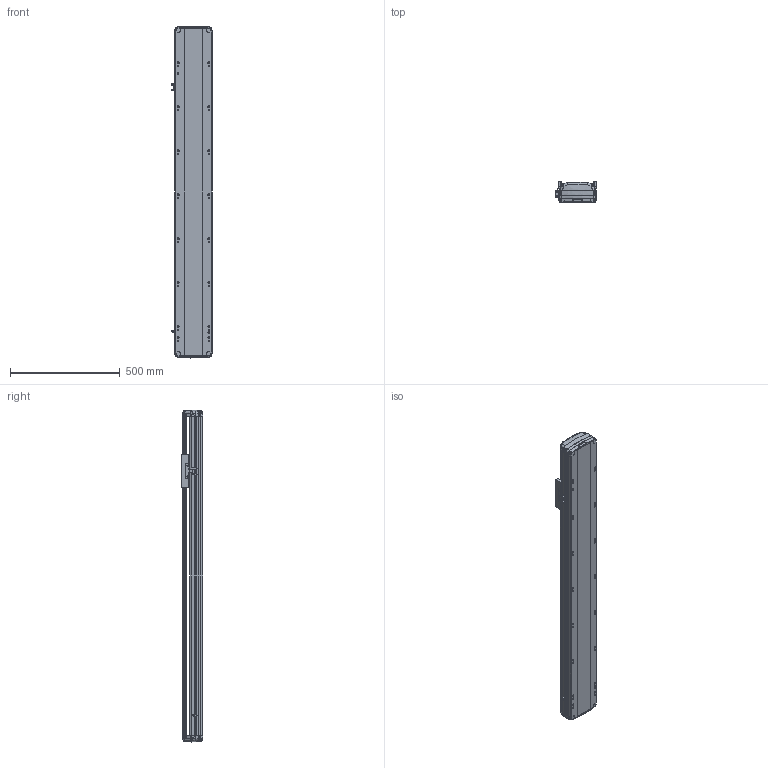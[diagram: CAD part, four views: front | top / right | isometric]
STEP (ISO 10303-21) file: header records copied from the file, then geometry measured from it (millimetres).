
FILE_DESCRIPTION (( 'STEP AP214' ), '1' );
FILE_NAME ('RTH17-XX-1100-B-M40-C4.STEP', '2025-10-24T08:39:25', ( '' ), ( '' ), 'SwSTEP 2.0', 'SolidWorks 2018', '' );
FILE_SCHEMA (( 'AUTOMOTIVE_DESIGN' ));
Length unit declared in the file: millimetre
Products named in the file (7): N_RTH17-M-011底座^RTH17-XX-XX-B-M40-C4（方程式）; RTH17-XX-1100-B-M40-C4; N_RTH-L-012 感应片(外置)^RTH17-XX-XX-B-M40-C4（方程式）; N_RTH17-M-007上盖^RTH17-XX-XX-B-M40-C4（方程式）; N_RTH17-E-004丝杆螺母连接座^RTH17-XX-XX-B-M40-C4（方程式）; N_OMRON EE-SX672 換覜ん^RTH17-XX-XX-B-M40-C4ㄗ源最宒ㄘ; N_RTH17-GY-001P^RTH17-XX-XX-B-M40-C4（方程式）
Assembly tree (9 placements, depth 2):
  RTH17-XX-1100-B-M40-C4
    N_RTH17-M-011底座^RTH17-XX-XX-B-M40-C4（方程式）
    N_RTH17-M-007上盖^RTH17-XX-XX-B-M40-C4（方程式）
    N_OMRON EE-SX672 換覜ん^RTH17-XX-XX-B-M40-C4ㄗ源最宒ㄘ  x3
    N_RTH-L-012 感应片(外置)^RTH17-XX-XX-B-M40-C4（方程式）
    N_RTH17-E-004丝杆螺母连接座^RTH17-XX-XX-B-M40-C4（方程式）
    N_RTH17-GY-001P^RTH17-XX-XX-B-M40-C4（方程式）  x2
Bounding box: 183.5 x 97 x 1509.88 mm (x, y, z)
Volume: 10948729.7 mm3; surface area: 1491027.9 mm2
Topology: 7 solids, 11 shells, 1768 faces, 4988 edges, 3242 vertices
Faces by surface type: plane 815, cylinder 487, bspline 420, cone 28, torus 18
Entity records: 42582 total; most frequent: CARTESIAN_POINT 17551, ORIENTED_EDGE 5480, DIRECTION 4336, EDGE_CURVE 2744, VERTEX_POINT 1796, VECTOR 1472, LINE 1472, AXIS2_PLACEMENT_3D 1432
